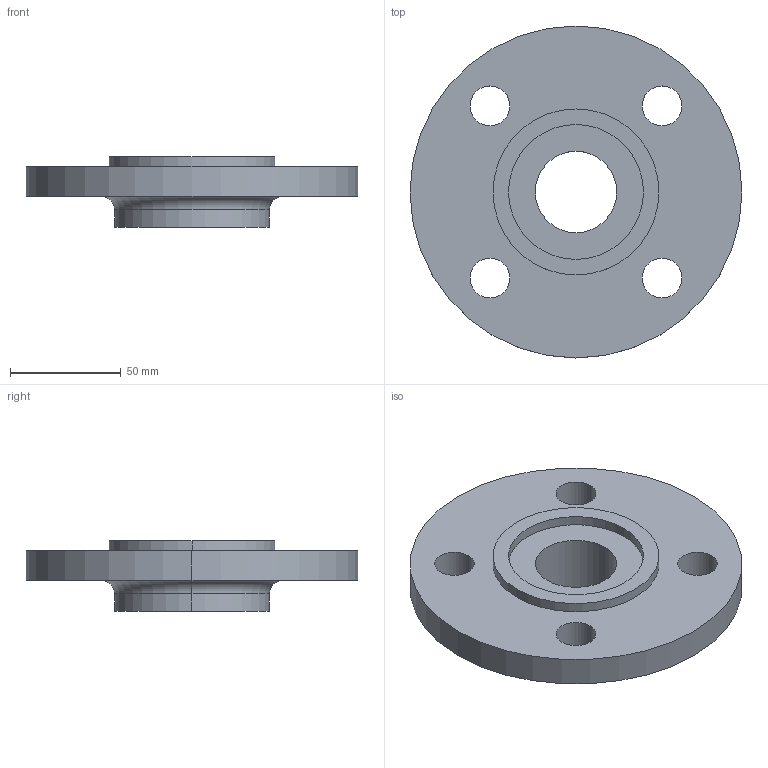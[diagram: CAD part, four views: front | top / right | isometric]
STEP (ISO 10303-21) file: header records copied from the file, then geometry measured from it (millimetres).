
FILE_DESCRIPTION (( 'STEP AP214' ), '1' );
FILE_NAME ('PN40 DN40 Type 13 - Type C Face.STEP', '2018-12-30T04:19:11', ( '' ), ( '' ), 'SwSTEP 2.0', 'SolidWorks 2019', '' );
FILE_SCHEMA (( 'AUTOMOTIVE_DESIGN' ));
Length unit declared in the file: millimetre
Products named in the file (1): PN40 DN40 Type 13 - Type C Face
Bounding box: 150 x 150 x 32 mm (x, y, z)
Volume: 258021.8 mm3; surface area: 48227.1 mm2
Topology: 1 solids, 1 shells, 25 faces, 58 edges, 38 vertices
Faces by surface type: cylinder 18, plane 5, torus 2
Entity records: 790 total; most frequent: DIRECTION 150, CARTESIAN_POINT 122, ORIENTED_EDGE 116, AXIS2_PLACEMENT_3D 66, EDGE_CURVE 58, CIRCLE 40, VERTEX_POINT 38, EDGE_LOOP 38
